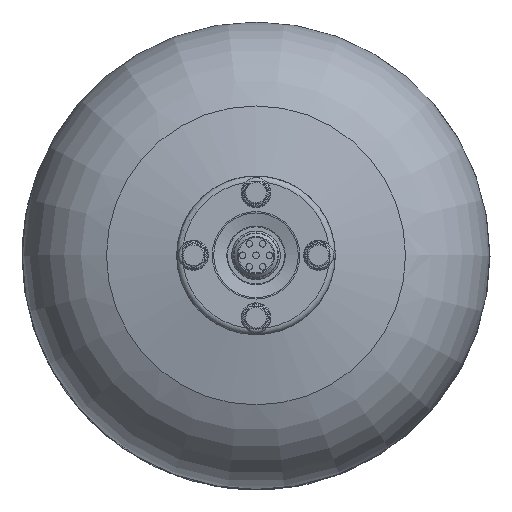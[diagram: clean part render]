
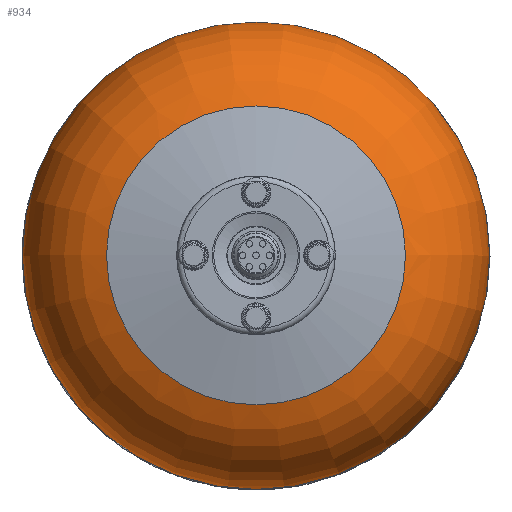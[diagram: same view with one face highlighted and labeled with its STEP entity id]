
A CAD part, top view. The second image highlights one B-rep face of the part: STEP entity #934.
In plain terms, the highlighted toroidal (fillet/blend) face has major radius 70 mm and minor radius 70 mm.
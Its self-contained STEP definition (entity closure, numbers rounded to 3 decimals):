
#934=ADVANCED_FACE('',(#3607,#3609),#3611,.T.);
#3607=FACE_BOUND('',#3608,.T.);
#3608=EDGE_LOOP('',(#5892,#5893));
#3609=FACE_BOUND('',#3610,.T.);
#3610=EDGE_LOOP('',(#5894,#5895));
#3611=DEGENERATE_TOROIDAL_SURFACE('',#3612,70.,70.,.T.);
#3612=AXIS2_PLACEMENT_3D('',#3613,#3614,#3615);
#3613=CARTESIAN_POINT('',(0.,0.,142.396));
#3614=DIRECTION('',(0.,0.,1.));
#3615=DIRECTION('',(1.,0.,0.));
#5892=ORIENTED_EDGE('',*,*,#6975,.T.);
#5893=ORIENTED_EDGE('',*,*,#6976,.T.);
#5894=ORIENTED_EDGE('',*,*,#6900,.F.);
#5895=ORIENTED_EDGE('',*,*,#6899,.F.);
#6899=EDGE_CURVE('',#7510,#7511,#7512,.T.);
#6900=EDGE_CURVE('',#7511,#7510,#7513,.T.);
#6975=EDGE_CURVE('',#7614,#7615,#7616,.T.);
#6976=EDGE_CURVE('',#7615,#7614,#7617,.T.);
#7510=VERTEX_POINT('',#9185);
#7511=VERTEX_POINT('',#9186);
#7512=CIRCLE('',#9187,89.6);
#7513=CIRCLE('',#9191,89.6);
#7614=VERTEX_POINT('',#9445);
#7615=VERTEX_POINT('',#9446);
#7616=CIRCLE('',#9447,140.);
#7617=CIRCLE('',#9451,140.);
#9185=CARTESIAN_POINT('',(89.6,0.,209.596));
#9186=CARTESIAN_POINT('',(-89.6,0.,209.596));
#9187=AXIS2_PLACEMENT_3D('',#9188,#9189,#9190);
#9188=CARTESIAN_POINT('',(0.,0.,209.596));
#9189=DIRECTION('',(0.,0.,1.));
#9190=DIRECTION('',(1.,0.,0.));
#9191=AXIS2_PLACEMENT_3D('',#9192,#9193,#9194);
#9192=CARTESIAN_POINT('',(0.,0.,209.596));
#9193=DIRECTION('',(0.,0.,1.));
#9194=DIRECTION('',(-1.,0.,0.));
#9445=CARTESIAN_POINT('',(140.,0.,142.396));
#9446=CARTESIAN_POINT('',(-140.,0.,142.396));
#9447=AXIS2_PLACEMENT_3D('',#9448,#9449,#9450);
#9448=CARTESIAN_POINT('',(0.,0.,142.396));
#9449=DIRECTION('',(0.,0.,1.));
#9450=DIRECTION('',(1.,0.,0.));
#9451=AXIS2_PLACEMENT_3D('',#9452,#9453,#9454);
#9452=CARTESIAN_POINT('',(0.,0.,142.396));
#9453=DIRECTION('',(0.,0.,1.));
#9454=DIRECTION('',(-1.,0.,0.));
